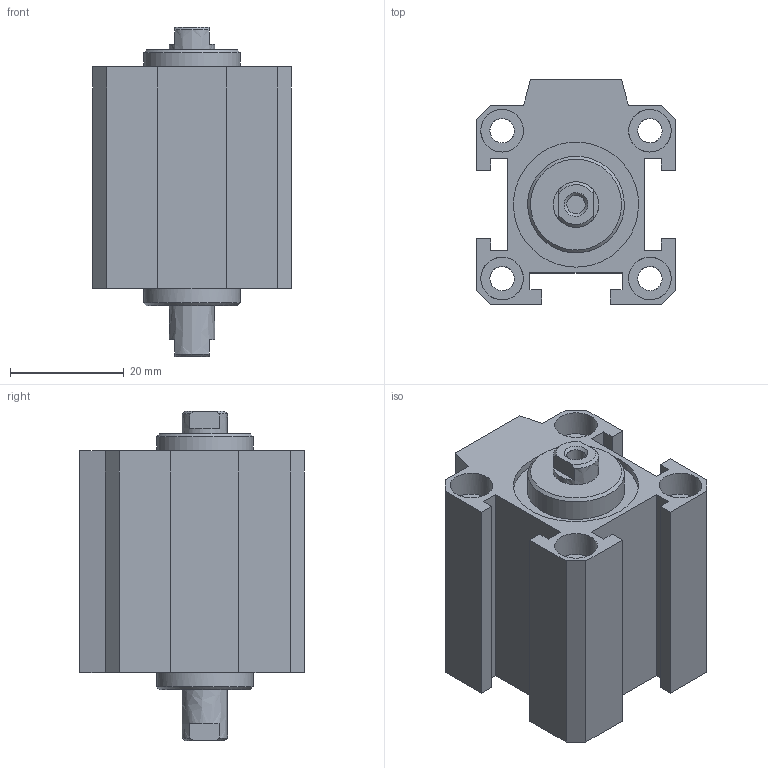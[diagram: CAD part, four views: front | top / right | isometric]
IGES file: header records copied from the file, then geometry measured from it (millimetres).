
Global section: file name: 1514_20_0005; native system: Autodesk Inventor 2014; preprocessor: unknown; author: A. Manieri; date: 20160824.110418; units: millimetre
Bounding box: 35 x 39.5 x 58 mm (x, y, z)
Volume: 36596.6 mm3; surface area: 18307.9 mm2
Topology: 2 solids, 2 shells, 104 faces, 271 edges, 191 vertices
Faces by surface type: bspline 104
